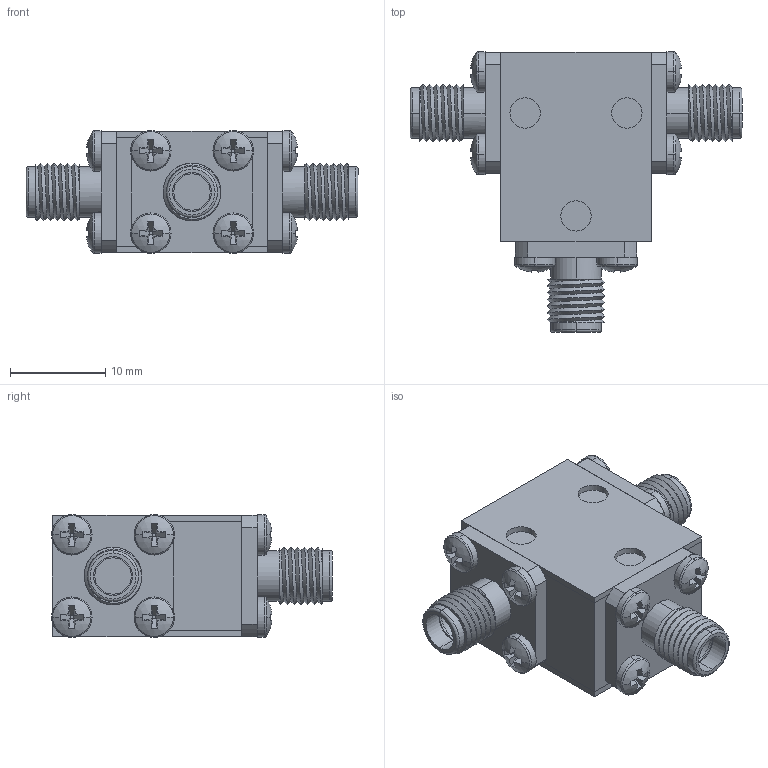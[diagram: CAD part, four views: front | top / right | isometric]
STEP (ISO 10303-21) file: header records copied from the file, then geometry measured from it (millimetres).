
FILE_DESCRIPTION (( 'STEP AP214' ), '1' );
FILE_NAME ('Package 6 Circ FFF.step', '2021-12-01T21:01:16', ( '' ), ( '' ), 'SwSTEP 2.0', 'SolidWorks 2016', '' );
FILE_SCHEMA (( 'AUTOMOTIVE_DESIGN' ));
Length unit declared in the file: inch
Products named in the file (5): Package 6; Delta SMA-Female 0.500 flange Threaded; pan cross head_ai_CR-PHMS 0.086-56x0.125x0.125-N; Package Size 6; Package 6 Circ FFF
Assembly tree (17 placements, depth 2):
  Package 6 Circ FFF
    Package Size 6
    Package 6
    Delta SMA-Female 0.500 flange Threaded  x3
    pan cross head_ai_CR-PHMS 0.086-56x0.125x0.125-N  x12
Bounding box: 34.8 x 29.43 x 12.88 mm (x, y, z)
Volume: 5140.7 mm3; surface area: 5906.5 mm2
Topology: 17 solids, 17 shells, 421 faces, 957 edges, 591 vertices
Faces by surface type: plane 232, cylinder 126, torus 30, sphere 24, bspline 9
Entity records: 3729 total; most frequent: CARTESIAN_POINT 1205, DIRECTION 527, ORIENTED_EDGE 434, EDGE_CURVE 217, AXIS2_PLACEMENT_3D 211, VERTEX_POINT 139, EDGE_LOOP 116, VECTOR 105
